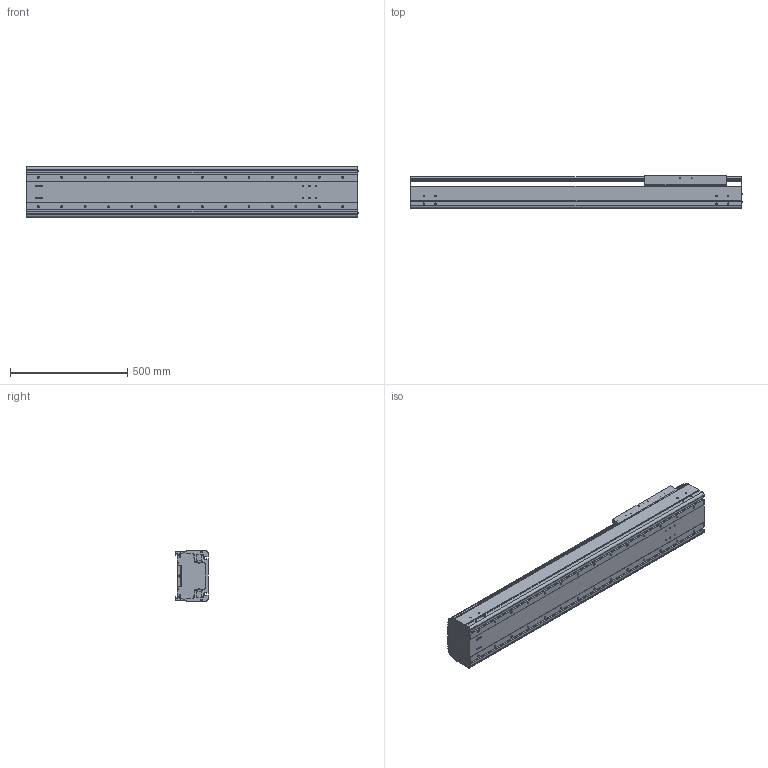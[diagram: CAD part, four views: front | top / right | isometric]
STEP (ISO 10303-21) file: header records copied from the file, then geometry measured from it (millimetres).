
FILE_DESCRIPTION((''),'2;1');
FILE_NAME('BE60G-ST-L_N-95_IGS_PRT','2017-06-18T',(' '),(''),'PRO/ENGINEER BY PARAMETRIC TECHNOLOGY CORPORATION, 2015030','PRO/ENGINEER BY PARAMETRIC TECHNOLOGY CORPORATION, 2015030','');
FILE_SCHEMA(('CONFIG_CONTROL_DESIGN'));
Length unit declared in the file: millimetre
Products named in the file (1): BE60G-ST-L_N-95_IGS_PRT
Bounding box: 1417.4 x 140 x 214 mm (x, y, z)
Volume: 11793132.5 mm3; surface area: 3092207 mm2
Topology: 2 solids, 146 shells, 1596 faces, 4448 edges, 2918 vertices
Faces by surface type: cylinder 816, plane 616, cone 116, sphere 24, torus 24
Entity records: 53128 total; most frequent: CARTESIAN_POINT 11980, DIRECTION 8658, ORIENTED_EDGE 8104, EDGE_CURVE 4336, AXIS2_PLACEMENT_3D 3229, VERTEX_POINT 2918, VECTOR 2200, LINE 2200
